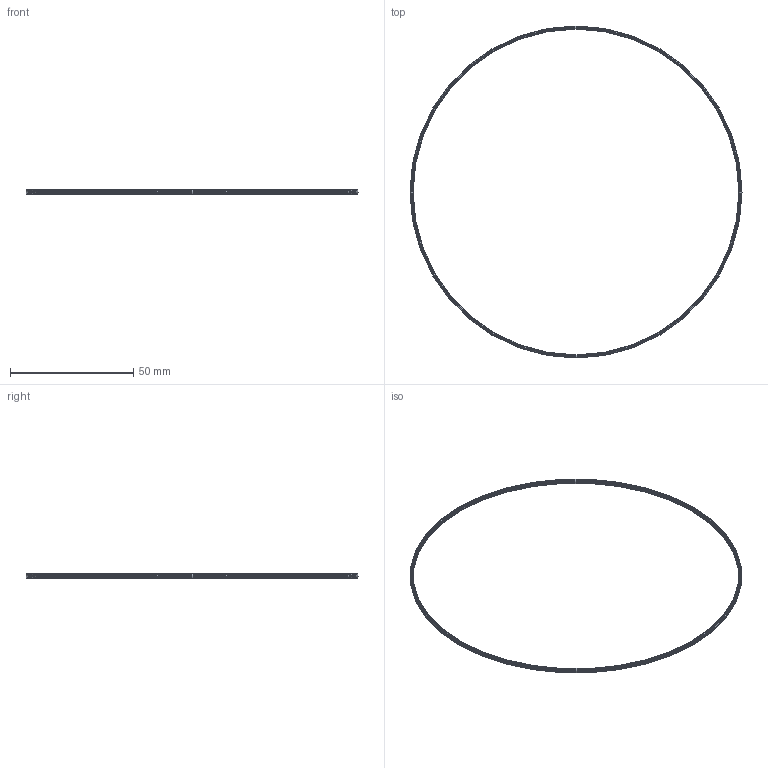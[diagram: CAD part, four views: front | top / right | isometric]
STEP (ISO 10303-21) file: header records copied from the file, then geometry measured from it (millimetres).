
FILE_DESCRIPTION(('Open CASCADE Model'),'2;1');
FILE_NAME('Open CASCADE Shape Model','2026-09-23T04:43:31',('Author'),( 'Open CASCADE'),'Open CASCADE STEP processor 7.9','Open CASCADE 7.9' ,'Unknown');
FILE_SCHEMA(('AUTOMOTIVE_DESIGN { 1 0 10303 214 1 1 1 1 }'));
Length unit declared in the file: millimetre
Products named in the file (1): Open CASCADE STEP translator 7.9 13
Bounding box: 134.6 x 134.6 x 1.9 mm (x, y, z)
Volume: 805.9 mm3; surface area: 2118.9 mm2
Topology: 1 solids, 1 shells, 32 faces, 64 edges, 32 vertices
Faces by surface type: cone 32
Entity records: 1650 total; most frequent: DIRECTION 290, CARTESIAN_POINT 257, LINE 160, VECTOR 160, ORIENTED_EDGE 128, PCURVE 128, DEFINITIONAL_REPRESENTATION 128, AXIS2_PLACEMENT_3D 65
